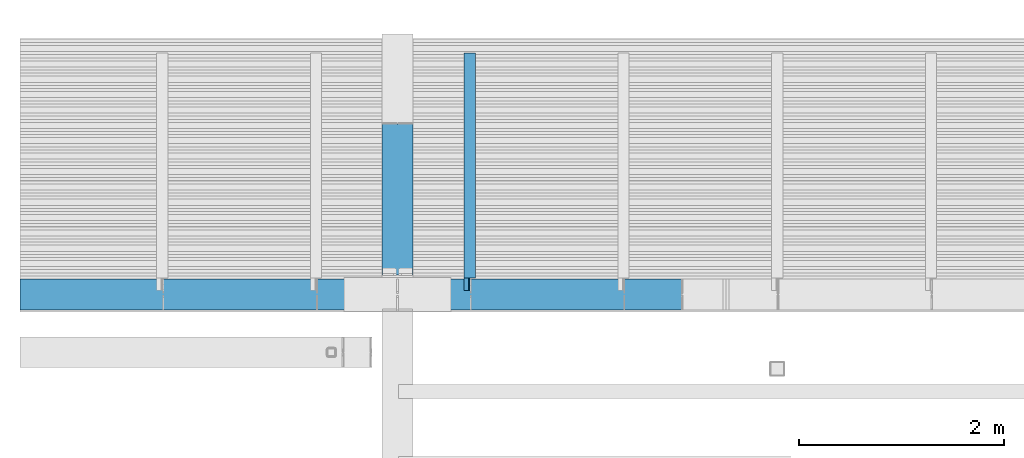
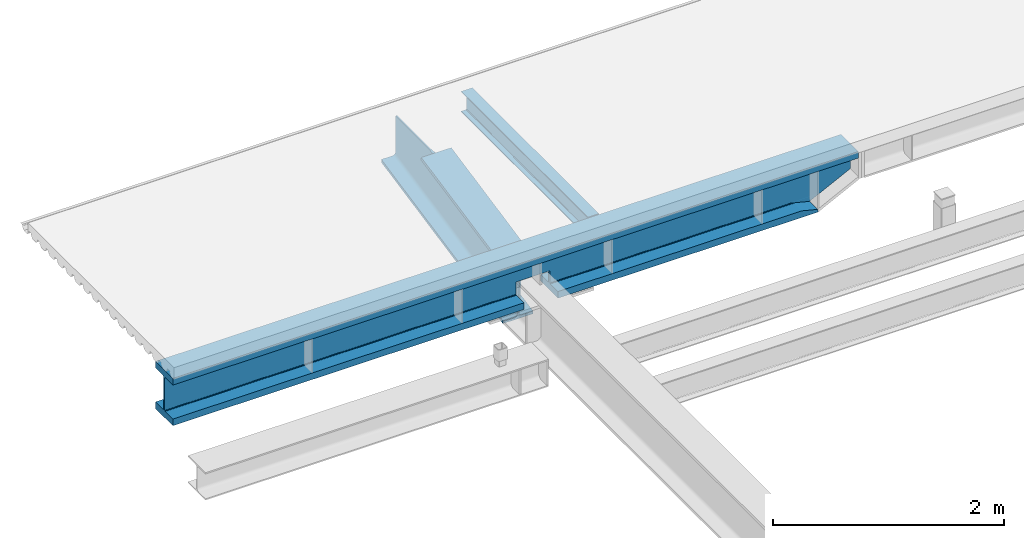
# One storey, part 6 of 12: 3 beams.
"""IFC2X3 building model written with IfcOpenShell, lengths in millimetres."""

from ifc_helpers import new_model, entity, si_unit, converted_unit, derived_unit, direction, frame, origin_with_axes, place, context, subcontext, project, spatial, faceted_brep, type_object, element, save


model = new_model("IFC2X3")

# Units and contexts
model_context = context("Model", 3, precision=0.01, world=frame((0.0, 4.29681676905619e-09, 0.0)), true_north=direction((4.01073788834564e-13, 1.0)))
plan_context = context("Plan", 3, precision=0.01, world=frame((0.0, 4.29681676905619e-09, 0.0)), true_north=direction((4.01073788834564e-13, 1.0)))
body_context = subcontext(model_context, "Body", "Model", "MODEL_VIEW")
ifc_project = project(units=[converted_unit("PLANEANGLEUNIT", "DEGREE", entity("IfcPositiveLengthMeasure", 0.0174532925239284), si_unit("PLANEANGLEUNIT", "RADIAN"), dimensions=[0, 0, 0, 0, 0, 0, 0]), si_unit("AREAUNIT", "SQUARE_METRE"), si_unit("LENGTHUNIT", "METRE", prefix="MILLI"), si_unit("MASSUNIT", "GRAM", prefix="KILO"), si_unit("POWERUNIT", "WATT"), si_unit("PRESSUREUNIT", "PASCAL"), si_unit("FORCEUNIT", "NEWTON", prefix="KILO"), si_unit("ELECTRICVOLTAGEUNIT", "VOLT"), si_unit("ELECTRICCURRENTUNIT", "AMPERE"), si_unit("THERMODYNAMICTEMPERATUREUNIT", "DEGREE_CELSIUS"), si_unit("TIMEUNIT", "SECOND"), si_unit("VOLUMEUNIT", "CUBIC_METRE"), derived_unit("LINEARVELOCITYUNIT", [(si_unit("LENGTHUNIT", "METRE"), 1), (si_unit("TIMEUNIT", "SECOND"), -1)]), derived_unit("VOLUMETRICFLOWRATEUNIT", [(si_unit("VOLUMEUNIT", "CUBIC_METRE"), 1), (si_unit("TIMEUNIT", "SECOND"), -1)]), derived_unit("THERMALTRANSMITTANCEUNIT", [(si_unit("POWERUNIT", "WATT"), 1), (si_unit("THERMODYNAMICTEMPERATUREUNIT", "KELVIN"), -1), (si_unit("AREAUNIT", "SQUARE_METRE"), -1)]), derived_unit("SOUNDPRESSUREUNIT", [(si_unit("PRESSUREUNIT", "PASCAL"), 1)])], contexts=[model_context, plan_context])

# Site, building, storey
site_placement = place(None, frame((0.0, -4.29681676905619e-09, 0.0), z_axis=(0.0, 0.0, 1.0), x_axis=(1.0, 0.0, 0.0)))
site = spatial("IfcSite", under=ifc_project, at=site_placement, Name="Gardermoen", CompositionType="ELEMENT")
building_placement = place(site_placement, frame((0.0, 4.29681676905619e-09, 0.0), z_axis=(0.0, 0.0, 1.0), x_axis=(1.0, 0.0, 0.0)))
building = spatial("IfcBuilding", under=site, at=building_placement, Name="TH", CompositionType="ELEMENT")
storey_placement = place(building_placement, origin_with_axes())
storey = spatial("IfcBuildingStorey", under=building, at=storey_placement, Name="D", CompositionType="ELEMENT", Elevation=0.0)

# Beams
beam_type_1 = type_object("IfcBeamType", Name="HEB600", PredefinedType="NOTDEFINED")
beam_1_placement = place(storey_placement, frame((898795.000000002, 485190.189690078, 209433.977425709), z_axis=(0.0, -0.199367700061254, 0.979924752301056), x_axis=(0.0, 0.979924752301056, 0.199367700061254)))
element("IfcBeam", 1, at=beam_1_placement, inside=storey, type_object=beam_type_1, Name="STÅLBJELKE", ObjectType="HEB600", context=body_context, shape_type="Brep", body=[
    faceted_brep([(2150.82841306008, -150.000000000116, -300.0), (2150.82841306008, 149.999999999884, -300.0), (-1.86077646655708e-10, 149.999999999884, -300.0), (-1.86077646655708e-10, -150.000000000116, -300.0), (2156.93197457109, -150.000000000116, -270.0), (2150.82841306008, -150.000000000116, -299.999451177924), (3.02083751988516, -150.000000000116, -270.0), (2156.93197457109, -34.7500000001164, -270.0), (3.02083751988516, -34.7500000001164, -270.0), (2157.03752497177, -29.4825613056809, -269.481202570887), (3.07307761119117, -29.4825613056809, -269.481202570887), (2157.3501199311, -24.417547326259, -267.944747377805), (3.2277903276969, -24.417547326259, -267.944747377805), (2157.8577466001, -19.7496037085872, -265.449679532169), (3.47903014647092, -19.7496037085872, -265.449679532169), (2158.54089717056, -15.6581169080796, -262.091883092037), (3.81714206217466, -15.6581169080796, -262.091883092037), (2159.37331854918, -12.3003204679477, -258.000396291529), (4.22913262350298, -12.3003204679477, -258.000396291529), (2160.32302124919, -9.80525262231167, -253.332452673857), (4.69916926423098, -9.80525262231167, -253.332452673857), (2161.35350872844, -8.2687974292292, -248.267438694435), (5.20918873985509, -8.2687974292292, -248.267438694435), (2162.42517993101, -7.75000000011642, -243.0), (5.73959128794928, -7.75000000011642, -243.0), (2238.78830322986, -7.7500000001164, 132.33720186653), (54.6771591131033, -7.75000000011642, 243.0), (1694.86260826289, -7.75000000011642, 243.0), (55.2075616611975, -8.2687974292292, 248.267438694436), (1668.97228829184, -8.2687974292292, 248.267438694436), (55.7175811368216, -9.80525262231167, 253.332452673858), (1644.07691879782, -9.80525262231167, 253.332452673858), (56.1876177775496, -12.3003204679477, 258.000396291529), (1621.13321486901, -12.3003204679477, 258.000396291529), (56.5996083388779, -15.6581169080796, 262.091883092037), (1601.0228901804, -15.6581169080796, 262.091883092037), (56.9377202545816, -19.7496037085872, 265.449679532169), (1584.51877323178, -19.7496037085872, 265.449679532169), (57.1889600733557, -24.417547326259, 267.944747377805), (1572.25510798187, -24.417547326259, 267.944747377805), (57.3436727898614, -29.482561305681, 269.481202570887), (1564.70318020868, -29.482561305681, 269.481202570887), (57.3959128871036, -34.7500005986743, 270.000000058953), (1562.1532028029, -34.7500071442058, 270.000000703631), (57.3959128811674, -150.000000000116, 270.0), (1562.15320273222, -150.000000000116, 270.0), (1562.1532028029, -34.7500000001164, 270.0), (57.3959128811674, -34.7500000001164, 270.0), (60.4167504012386, -150.000000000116, 300.0), (1565.17404025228, -150.000000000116, 300.0), (1562.1532028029, -150.000000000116, 270.000000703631), (57.3959128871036, -150.000000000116, 270.000000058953), (60.4167504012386, 149.999999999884, 300.0), (1565.17404025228, 149.999999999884, 300.0), (57.3959128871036, 149.999999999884, 270.000000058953), (1562.1532028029, 149.999999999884, 270.000000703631), (57.3959128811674, 34.7499999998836, 270.0), (1562.1532028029, 34.7499999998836, 270.0), (1562.15320273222, 149.999999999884, 270.0), (57.3959128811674, 149.999999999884, 270.0), (57.3436727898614, 29.4825613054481, 269.481202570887), (1564.70318020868, 29.4825613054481, 269.481202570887), (1562.1532028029, 34.7500071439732, 270.000000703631), (57.3959128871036, 34.7500005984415, 270.000000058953), (57.1889600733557, 24.4175473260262, 267.944747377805), (1572.25510798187, 24.4175473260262, 267.944747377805), (56.9377202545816, 19.7496037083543, 265.449679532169), (1584.51877323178, 19.7496037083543, 265.449679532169), (56.5996083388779, 15.6581169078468, 262.091883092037), (1601.0228901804, 15.6581169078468, 262.091883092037), (56.1876177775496, 12.3003204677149, 258.000396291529), (1621.13321486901, 12.3003204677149, 258.000396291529), (55.7175811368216, 9.80525262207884, 253.332452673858), (1644.07691879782, 9.80525262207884, 253.332452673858), (55.2075616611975, 8.26879742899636, 248.267438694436), (1668.97228829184, 8.26879742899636, 248.267438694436), (54.6771591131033, 7.74999999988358, 243.0), (1694.86260826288, 7.74999999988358, 243.0), (2162.42517993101, 7.74999999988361, -243.0), (2238.78830322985, 7.74999999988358, 132.33720186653), (5.73959128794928, 7.74999999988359, -243.0), (2161.35350872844, 8.26879742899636, -248.267438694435), (5.20918873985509, 8.26879742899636, -248.267438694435), (2160.32302124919, 9.80525262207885, -253.332452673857), (4.69916926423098, 9.80525262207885, -253.332452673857), (2159.37331854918, 12.3003204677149, -258.000396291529), (4.22913262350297, 12.3003204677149, -258.000396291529), (2158.54089717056, 15.6581169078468, -262.091883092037), (3.81714206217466, 15.6581169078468, -262.091883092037), (2157.8577466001, 19.7496037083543, -265.449679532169), (3.47903014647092, 19.7496037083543, -265.449679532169), (2157.3501199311, 24.4175473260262, -267.944747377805), (3.2277903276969, 24.4175473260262, -267.944747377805), (2157.03752497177, 29.4825613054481, -269.481202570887), (3.07307761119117, 29.4825613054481, -269.481202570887), (2156.93197457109, 34.7499999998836, -270.0), (3.02083751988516, 34.7499999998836, -270.0), (2156.93197457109, 149.999999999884, -270.0), (3.02083751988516, 149.999999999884, -270.0), (1562.15320626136, -34.7500000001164, 270.0), (1562.15320626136, 34.7499999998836, 270.0)], [[[0, 1, 2, 3]], [[4, 5, 3, 6]], [[7, 4, 6, 8]], [[9, 7, 8, 10]], [[11, 9, 10, 12]], [[13, 11, 12, 14]], [[15, 13, 14, 16]], [[17, 15, 16, 18]], [[19, 17, 18, 20]], [[21, 19, 20, 22]], [[23, 21, 22, 24]], [[25, 23, 24, 26, 27]], [[28, 29, 27, 26]], [[30, 31, 29, 28]], [[32, 33, 31, 30]], [[34, 35, 33, 32]], [[36, 37, 35, 34]], [[38, 39, 37, 36]], [[40, 41, 39, 38]], [[42, 43, 41, 40]], [[44, 45, 46, 47]], [[48, 49, 50, 51]], [[52, 53, 49, 48]], [[54, 55, 53, 52]], [[56, 57, 58, 59]], [[60, 61, 62, 63]], [[64, 65, 61, 60]], [[66, 67, 65, 64]], [[68, 69, 67, 66]], [[70, 71, 69, 68]], [[72, 73, 71, 70]], [[74, 75, 73, 72]], [[76, 77, 75, 74]], [[78, 79, 77, 76, 80]], [[81, 78, 80, 82]], [[83, 81, 82, 84]], [[85, 83, 84, 86]], [[87, 85, 86, 88]], [[89, 87, 88, 90]], [[91, 89, 90, 92]], [[93, 91, 92, 94]], [[95, 93, 94, 96]], [[97, 95, 96, 98]], [[1, 97, 98, 2]], [[53, 58, 45, 49]], [[79, 25, 27, 29, 31, 33, 35, 37, 39, 41, 99, 100, 61, 65, 67, 69, 71, 73, 75, 77]], [[98, 96, 94, 92, 90, 88, 86, 84, 82, 80, 76, 74, 72, 70, 68, 66, 64, 60, 56, 54, 52, 48, 44, 42, 40, 38, 36, 34, 32, 30, 28, 26, 24, 22, 20, 18, 16, 14, 12, 10, 8, 6, 3, 2]], [[4, 7, 9, 11, 13, 15, 17, 19, 21, 23, 25, 79, 78, 81, 83, 85, 87, 89, 91, 93, 95, 97, 1, 0]]], orient=[[False], [False], [False], [False], [False], [False], [False], [False], [False], [False], [False], [False], [False], [False], [False], [False], [False], [False], [False], [False], [False], [False], [False], [False], [False], [False], [False], [False], [False], [False], [False], [False], [False], [False], [False], [False], [False], [False], [False], [False], [False], [False], [False], [False], [False], [False], [False], [False]]),
])
beam_type_2 = type_object("IfcBeamType", Name="IPE220", PredefinedType="NOTDEFINED")
beam_2_placement = place(storey_placement, frame((899499.999781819, 484999.995625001, 209930.0), z_axis=(0.0, 0.0, 1.0), x_axis=(0.0, 1.0, 0.0)))
element("IfcBeam", 2, at=beam_2_placement, inside=storey, type_object=beam_type_2, Name="STÅLBJELKE", ObjectType="IPE220", context=body_context, shape_type="Brep", body=[
    faceted_brep([(2357.65437500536, -55.0, -110.0), (2357.65437500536, 55.0, -110.0), (39.9999999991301, 55.0, -110.0), (39.9999999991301, -2.9500000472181, -110.0), (159.999999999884, -2.95000004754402, -110.0), (159.999999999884, -55.0, -110.0), (2357.65437500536, -55.0, -100.800000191), (159.999999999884, -55.0, -100.800000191), (2357.65437500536, -14.9500000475, -100.800000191), (159.999999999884, -14.9500000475, -100.800000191), (2357.65437500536, -12.6089161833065, -100.569423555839), (159.999999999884, -12.6089161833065, -100.569423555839), (2357.65437500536, -10.3577988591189, -99.8865545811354), (159.999999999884, -10.3577988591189, -99.8865545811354), (2357.65437500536, -8.28315725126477, -98.7776355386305), (159.999999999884, -8.28315725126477, -98.7776355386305), (2357.65437500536, -6.46471867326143, -97.2852815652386), (159.999999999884, -6.46471867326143, -97.2852815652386), (2357.65437500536, -4.97236469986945, -95.4668429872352), (159.999999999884, -4.97236469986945, -95.4668429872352), (2357.65437500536, -3.86344565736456, -93.3922013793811), (159.999999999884, -3.86344565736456, -93.3922013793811), (2357.65437500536, -3.18057668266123, -91.1410840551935), (159.999999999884, -3.18057668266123, -91.1410840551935), (2357.65437500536, -2.9500000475, -88.800000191), (159.999999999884, -3.06818971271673, -90.0), (39.9999999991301, -3.06818971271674, -90.0), (39.9999999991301, -2.9500000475, -88.800000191), (2357.65437500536, -2.9500000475, 88.800000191), (39.9999999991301, -2.9500000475, 30.0), (150.000000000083, -2.95000004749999, 29.9999999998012), (151.564344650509, -2.95000004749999, 30.1231165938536), (153.090169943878, -2.95000004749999, 30.4894348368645), (154.539904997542, -2.95000004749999, 31.0899347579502), (155.877852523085, -2.95000004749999, 31.9098300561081), (157.071067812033, -2.95000004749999, 32.9289321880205), (158.090169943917, -2.95000004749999, 34.1221474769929), (158.910065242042, -2.95000004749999, 35.4600950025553), (159.510565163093, -2.95000004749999, 36.9098300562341), (159.876883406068, -2.95000004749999, 38.435655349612), (160.000000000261, -2.95000004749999, 39.999999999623), (160.000000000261, -2.9500000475, 88.800000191), (2357.65437500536, -3.18057668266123, 91.1410840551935), (160.000000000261, -3.18057668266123, 91.1410840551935), (2357.65437500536, -3.86344565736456, 93.3922013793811), (160.000000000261, -3.86344565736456, 93.3922013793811), (2357.65437500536, -4.97236469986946, 95.4668429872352), (160.000000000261, -4.97236469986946, 95.4668429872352), (2357.65437500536, -6.46471867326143, 97.2852815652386), (160.000000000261, -6.46471867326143, 97.2852815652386), (2357.65437500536, -8.28315725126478, 98.7776355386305), (160.000000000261, -8.28315725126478, 98.7776355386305), (2357.65437500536, -10.3577988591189, 99.8865545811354), (160.000000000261, -10.3577988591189, 99.8865545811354), (2357.65437500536, -12.6089161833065, 100.569423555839), (160.000000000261, -12.6089161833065, 100.569423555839), (2357.65437500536, -14.9500000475, 100.800000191), (160.000000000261, -14.9500000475, 100.800000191), (2357.65437500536, -55.0, 100.800000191), (160.000000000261, -55.0, 100.800000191), (2357.65437500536, -55.0, 110.0), (160.000000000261, -55.0, 110.0), (2357.65437500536, 55.0, 110.0), (160.000000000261, 55.0, 110.0), (2357.65437500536, 55.0, 100.800000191), (160.000000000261, 55.0, 100.800000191), (2357.65437500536, 14.9500000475, 100.800000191), (160.000000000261, 14.9500000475, 100.800000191), (2357.65437500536, 12.6089161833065, 100.569423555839), (160.000000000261, 12.6089161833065, 100.569423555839), (2357.65437500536, 10.3577988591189, 99.8865545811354), (160.000000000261, 10.3577988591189, 99.8865545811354), (2357.65437500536, 8.28315725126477, 98.7776355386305), (160.000000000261, 8.28315725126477, 98.7776355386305), (2357.65437500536, 6.46471867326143, 97.2852815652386), (160.000000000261, 6.46471867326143, 97.2852815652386), (2357.65437500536, 4.97236469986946, 95.4668429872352), (160.000000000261, 4.97236469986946, 95.4668429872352), (2357.65437500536, 3.86344565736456, 93.3922013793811), (160.000000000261, 3.86344565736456, 93.3922013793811), (2357.65437500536, 3.18057668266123, 91.1410840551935), (160.000000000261, 3.18057668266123, 91.1410840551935), (2357.65437500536, 2.9500000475, 88.800000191), (160.000000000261, 2.9500000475, 88.800000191), (2357.65437500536, 2.9500000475, -88.800000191), (160.000000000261, 2.9500000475, 39.999999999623), (159.876883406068, 2.9500000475, 38.435655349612), (159.510565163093, 2.9500000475, 36.9098300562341), (158.910065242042, 2.9500000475, 35.4600950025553), (158.090169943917, 2.9500000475, 34.1221474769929), (157.071067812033, 2.9500000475, 32.9289321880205), (155.877852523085, 2.9500000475, 31.9098300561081), (154.539904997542, 2.9500000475, 31.0899347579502), (153.090169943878, 2.9500000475, 30.4894348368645), (151.564344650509, 2.9500000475, 30.1231165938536), (150.000000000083, 2.9500000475, 29.9999999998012), (39.9999999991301, 2.9500000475, 30.0), (39.9999999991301, 2.9500000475, -88.800000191), (2357.65437500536, 3.18057668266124, -91.1410840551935), (39.9999999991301, 3.18057668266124, -91.1410840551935), (2357.65437500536, 3.86344565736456, -93.3922013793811), (39.9999999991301, 3.86344565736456, -93.3922013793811), (2357.65437500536, 4.97236469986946, -95.4668429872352), (39.9999999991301, 4.97236469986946, -95.4668429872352), (2357.65437500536, 6.46471867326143, -97.2852815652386), (39.9999999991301, 6.46471867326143, -97.2852815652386), (2357.65437500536, 8.28315725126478, -98.7776355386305), (39.9999999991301, 8.28315725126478, -98.7776355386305), (2357.65437500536, 10.3577988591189, -99.8865545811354), (39.9999999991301, 10.3577988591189, -99.8865545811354), (2357.65437500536, 12.6089161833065, -100.569423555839), (39.9999999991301, 12.6089161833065, -100.569423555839), (2357.65437500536, 14.9500000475, -100.800000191), (39.9999999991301, 14.9500000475, -100.800000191), (2357.65437500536, 55.0, -100.800000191), (39.9999999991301, 55.0, -100.800000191), (159.999999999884, -2.95000004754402, -90.0), (39.9999999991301, -2.95000004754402, -90.0)], [[[0, 1, 2, 3, 4, 5]], [[6, 0, 5, 7]], [[8, 6, 7, 9]], [[10, 8, 9, 11]], [[12, 10, 11, 13]], [[14, 12, 13, 15]], [[16, 14, 15, 17]], [[18, 16, 17, 19]], [[20, 18, 19, 21]], [[22, 20, 21, 23]], [[24, 22, 23, 25, 26, 27]], [[28, 24, 27, 29, 30, 31, 32, 33, 34, 35, 36, 37, 38, 39, 40, 41]], [[42, 28, 41, 43]], [[44, 42, 43, 45]], [[46, 44, 45, 47]], [[48, 46, 47, 49]], [[50, 48, 49, 51]], [[52, 50, 51, 53]], [[54, 52, 53, 55]], [[56, 54, 55, 57]], [[58, 56, 57, 59]], [[60, 58, 59, 61]], [[62, 60, 61, 63]], [[64, 62, 63, 65]], [[66, 64, 65, 67]], [[68, 66, 67, 69]], [[70, 68, 69, 71]], [[72, 70, 71, 73]], [[74, 72, 73, 75]], [[76, 74, 75, 77]], [[78, 76, 77, 79]], [[80, 78, 79, 81]], [[82, 80, 81, 83]], [[84, 82, 83, 85, 86, 87, 88, 89, 90, 91, 92, 93, 94, 95, 96, 97]], [[98, 84, 97, 99]], [[100, 98, 99, 101]], [[102, 100, 101, 103]], [[104, 102, 103, 105]], [[106, 104, 105, 107]], [[108, 106, 107, 109]], [[110, 108, 109, 111]], [[112, 110, 111, 113]], [[114, 112, 113, 115]], [[1, 114, 115, 2]], [[116, 25, 23, 21, 19, 17, 15, 13, 11, 9, 7, 5, 4]], [[116, 117, 26, 25]], [[116, 4, 3, 117]], [[30, 29, 96, 95]], [[95, 94, 31, 30]], [[94, 93, 32, 31]], [[93, 92, 33, 32]], [[92, 91, 34, 33]], [[91, 90, 35, 34]], [[90, 89, 36, 35]], [[89, 88, 37, 36]], [[88, 87, 38, 37]], [[87, 86, 39, 38]], [[86, 85, 40, 39]], [[85, 83, 81, 79, 77, 75, 73, 71, 69, 67, 65, 63, 61, 59, 57, 55, 53, 51, 49, 47, 45, 43, 41, 40]], [[26, 117, 3, 2, 115, 113, 111, 109, 107, 105, 103, 101, 99, 97, 96, 29, 27]], [[6, 8, 10, 12, 14, 16, 18, 20, 22, 24, 28, 42, 44, 46, 48, 50, 52, 54, 56, 58, 60, 62, 64, 66, 68, 70, 72, 74, 76, 78, 80, 82, 84, 98, 100, 102, 104, 106, 108, 110, 112, 114, 1, 0]]], orient=[[False], [False], [False], [False], [False], [False], [False], [False], [False], [False], [False], [False], [False], [False], [False], [False], [False], [False], [False], [False], [False], [False], [False], [False], [False], [False], [False], [False], [False], [False], [False], [False], [False], [False], [False], [False], [False], [False], [False], [False], [False], [False], [False], [False], [False], [False], [False], [False], [False], [False], [False], [False], [False], [False], [False], [False], [False], [False], [False], [False], [False]]),
])
beam_type_3 = type_object("IfcBeamType", Name="HI500-20-70*300", PredefinedType="NOTDEFINED")
beam_3_placement = place(storey_placement, frame((886883.999781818, 484999.995625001, 209790.0), z_axis=(0.0, 0.0, 1.0), x_axis=(1.0, 0.0, 0.0)))
element("IfcBeam", 3, at=beam_3_placement, inside=storey, type_object=beam_type_3, Name="STÅLBJELKE", ObjectType="HI500-20-70*300", context=body_context, shape_type="Brep", body=[
    faceted_brep([(14686.0006549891, -150.0, -250.0), (14686.0006549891, 150.0, -250.0), (12081.0002181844, 150.0, -250.0), (12081.0002181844, -150.0, -250.0), (8227.90638675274, 150.0, -250.0), (8227.90638675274, -150.0, -250.0), (11741.0002181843, -150.0, -250.0), (11741.0002181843, 150.0, -250.0), (14518.9186529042, -150.0, -180.0), (14678.9186156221, -150.0, -220.000000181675), (12081.0002181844, -150.0, -180.0), (8227.90638675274, -150.0, -180.0), (11741.0002181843, -150.0, -180.0), (14518.9186529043, -24.0, -180.0), (12081.0002181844, -24.0, -180.0), (8227.90638675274, -24.0, -180.0), (11741.0002181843, -24.0, -180.0), (14517.8426288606, -21.2687354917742, -179.730993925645), (12081.0002181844, -21.2687354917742, -179.730993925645), (8227.90638675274, -21.2687354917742, -179.730993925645), (11741.0002181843, -21.2687354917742, -179.730993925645), (14514.6559077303, -18.6424319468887, -178.934313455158), (12081.0002181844, -18.6424319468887, -178.934313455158), (8227.90638675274, -18.6424319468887, -178.934313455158), (11741.0002181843, -18.6424319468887, -178.934313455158), (14509.4809534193, -16.2220167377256, -177.640574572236), (12081.0002181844, -16.2220167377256, -177.640574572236), (8227.90638675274, -16.2220167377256, -177.640574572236), (11741.0002181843, -16.2220167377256, -177.640574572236), (14502.5166365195, -14.1005050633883, -175.899494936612), (12081.0002181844, -14.1005050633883, -175.899494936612), (8227.90638675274, -14.1005050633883, -175.899494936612), (11741.0002181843, -14.1005050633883, -175.899494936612), (14494.0305918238, -12.3594254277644, -173.777983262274), (12081.0002181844, -12.3594254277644, -173.777983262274), (8227.90638675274, -12.3594254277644, -173.777983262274), (11741.0002181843, -12.3594254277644, -173.777983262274), (14484.984855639, -11.065686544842, -171.357568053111), (14484.3664728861, -11.0680303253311, -171.361952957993), (12081.0002181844, -11.065686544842, -171.357568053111), (8227.90638675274, -11.065686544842, -171.357568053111), (11741.0002181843, -11.065686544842, -171.357568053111), (14781.4559646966, -10.2690060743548, -168.731264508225), (14780.3927890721, -10.4302616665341, -169.262852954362), (12081.0002181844, -10.2690060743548, -168.731264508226), (8227.90638675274, -10.2690060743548, -168.731264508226), (11741.0002181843, -10.2690060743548, -168.731264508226), (14786.9184871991, -9.99999999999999, -166.0), (12081.0002181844, -10.0, -166.0), (8227.90638675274, -10.0, -166.0), (11741.0002181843, -10.0, -166.0), (8227.90638675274, -10.0, 166.0), (15086.0002181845, -10.0, 166.0), (15086.0002181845, -10.000000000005, -16.4589561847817), (12081.0002181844, -10.0, -45.0000000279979), (11741.0002181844, -10.0, -45.0000000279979), (8227.90638675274, -10.2690060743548, 168.731264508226), (15086.0002181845, -10.2690060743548, 168.731264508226), (8227.90638675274, -11.065686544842, 171.357568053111), (15086.0002181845, -11.065686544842, 171.357568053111), (8227.90638675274, -12.3594254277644, 173.777983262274), (15086.0002181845, -12.3594254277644, 173.777983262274), (8227.90638675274, -14.1005050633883, 175.899494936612), (15086.0002181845, -14.1005050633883, 175.899494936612), (8227.90638675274, -16.2220167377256, 177.640574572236), (15086.0002181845, -16.2220167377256, 177.640574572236), (8227.90638675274, -18.6424319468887, 178.934313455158), (15086.0002181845, -18.6424319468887, 178.934313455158), (8227.90638675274, -21.2687354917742, 179.730993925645), (15086.0002181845, -21.2687354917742, 179.730993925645), (8227.90638675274, -24.0, 180.0), (15086.0002181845, -24.0, 180.0), (8227.90638675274, -150.0, 180.0), (15086.0002181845, -150.0, 180.0), (8227.90638675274, -150.0, 250.0), (15086.0002181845, -150.0, 250.0), (8227.90638675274, 150.0, 250.0), (15086.0002181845, 150.0, 250.0), (8227.90638675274, 150.0, 180.0), (15086.0002181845, 150.0, 180.0), (8227.90638675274, 24.0, 180.0), (15086.0002181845, 24.0, 180.0), (8227.90638675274, 21.2687354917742, 179.730993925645), (15086.0002181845, 21.2687354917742, 179.730993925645), (8227.90638675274, 18.6424319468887, 178.934313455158), (15086.0002181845, 18.6424319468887, 178.934313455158), (8227.90638675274, 16.2220167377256, 177.640574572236), (15086.0002181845, 16.2220167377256, 177.640574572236), (8227.90638675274, 14.1005050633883, 175.899494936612), (15086.0002181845, 14.1005050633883, 175.899494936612), (8227.90638675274, 12.3594254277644, 173.777983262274), (15086.0002181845, 12.3594254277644, 173.777983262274), (8227.90638675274, 11.065686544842, 171.357568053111), (15086.0002181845, 11.065686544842, 171.357568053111), (8227.90638675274, 10.2690060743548, 168.731264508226), (15086.0002181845, 10.2690060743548, 168.731264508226), (8227.90638675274, 10.0, 166.0), (15086.0002181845, 10.0, 166.0), (8227.90638675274, 10.0, -166.0), (11741.0002181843, 10.0, -166.0), (11741.0002181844, 9.99999999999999, -45.0000000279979), (12081.0002181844, 9.99999999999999, -45.0000000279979), (12081.0002181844, 10.0, -166.0), (14786.9184871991, 10.0, -166.0), (15086.0002181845, 10.0, -16.4589561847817), (14781.4559646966, 10.2690060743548, -168.731264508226), (12081.0002181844, 10.2690060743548, -168.731264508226), (8227.90638675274, 10.2690060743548, -168.731264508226), (11741.0002181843, 10.2690060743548, -168.731264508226), (14484.984855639, 11.0656865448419, -171.357568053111), (14780.3927890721, 10.4302616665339, -169.262852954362), (12081.0002181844, 11.065686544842, -171.357568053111), (8227.90638675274, 11.065686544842, -171.357568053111), (11741.0002181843, 11.065686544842, -171.357568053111), (14494.0305918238, 12.3594254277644, -173.777983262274), (14484.3664728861, 11.0670166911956, -171.361952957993), (12081.0002181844, 12.3594254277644, -173.777983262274), (8227.90638675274, 12.3594254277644, -173.777983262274), (11741.0002181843, 12.3594254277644, -173.777983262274), (14502.5166365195, 14.1005050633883, -175.899494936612), (12081.0002181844, 14.1005050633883, -175.899494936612), (8227.90638675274, 14.1005050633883, -175.899494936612), (11741.0002181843, 14.1005050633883, -175.899494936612), (14509.4809534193, 16.2220167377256, -177.640574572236), (12081.0002181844, 16.2220167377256, -177.640574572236), (8227.90638675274, 16.2220167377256, -177.640574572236), (11741.0002181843, 16.2220167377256, -177.640574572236), (14514.6559077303, 18.6424319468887, -178.934313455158), (12081.0002181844, 18.6424319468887, -178.934313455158), (8227.90638675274, 18.6424319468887, -178.934313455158), (11741.0002181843, 18.6424319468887, -178.934313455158), (14517.8426288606, 21.2687354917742, -179.730993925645), (12081.0002181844, 21.2687354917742, -179.730993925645), (8227.90638675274, 21.2687354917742, -179.730993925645), (11741.0002181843, 21.2687354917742, -179.730993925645), (14518.9186529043, 24.0, -180.0), (12081.0002181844, 24.0, -180.0), (8227.90638675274, 24.0, -180.0), (11741.0002181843, 24.0, -180.0), (14518.9186529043, 150.0, -180.0), (12081.0002181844, 150.0, -180.0), (8227.90638675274, 150.0, -180.0), (11741.0002181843, 150.0, -180.0), (14678.9186156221, 150.0, -220.000000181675), (14780.3927890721, 10.008749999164, -169.262852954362), (14678.9186163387, 10.008749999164, -220.000000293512), (14678.9186163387, -10.0000000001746, -220.000000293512), (14780.3927890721, -10.0000000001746, -169.262852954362), (14781.4559656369, -10.2690060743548, -168.731264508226), (14786.9184881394, -10.0, -166.0), (15086.0002181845, -10.0, -16.4589566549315), (15086.0002181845, 10.0, -16.4589566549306), (14786.9184881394, 10.0, -166.0), (14781.4559656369, 10.2690060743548, -168.731264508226), (14484.3664728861, -10.0000000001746, -171.361952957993), (14678.9186163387, -150.0, -220.000000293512), (14678.9186156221, -10.0000000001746, -220.000000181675), (14484.3664728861, 10.008749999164, -171.361952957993), (14484.3664728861, 11.0680303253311, -171.361952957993), (14678.9186163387, 150.0, -220.000000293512), (14484.3489332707, 11.065686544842, -171.357568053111), (14678.9186156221, 10.008749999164, -220.000000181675)], [[[0, 1, 2, 3]], [[4, 5, 6, 7]], [[8, 9, 0, 3, 10]], [[5, 11, 12, 6]], [[13, 8, 10, 14]], [[11, 15, 16, 12]], [[17, 13, 14, 18]], [[15, 19, 20, 16]], [[21, 17, 18, 22]], [[19, 23, 24, 20]], [[25, 21, 22, 26]], [[23, 27, 28, 24]], [[29, 25, 26, 30]], [[27, 31, 32, 28]], [[33, 29, 30, 34]], [[31, 35, 36, 32]], [[37, 38, 33, 34, 39]], [[35, 40, 41, 36]], [[42, 43, 37, 39, 44]], [[40, 45, 46, 41]], [[47, 42, 44, 48]], [[45, 49, 50, 46]], [[49, 51, 52, 53, 47, 48, 54, 55, 50]], [[51, 56, 57, 52]], [[56, 58, 59, 57]], [[58, 60, 61, 59]], [[60, 62, 63, 61]], [[62, 64, 65, 63]], [[64, 66, 67, 65]], [[66, 68, 69, 67]], [[68, 70, 71, 69]], [[70, 72, 73, 71]], [[72, 74, 75, 73]], [[74, 76, 77, 75]], [[76, 78, 79, 77]], [[78, 80, 81, 79]], [[80, 82, 83, 81]], [[82, 84, 85, 83]], [[84, 86, 87, 85]], [[86, 88, 89, 87]], [[88, 90, 91, 89]], [[90, 92, 93, 91]], [[92, 94, 95, 93]], [[94, 96, 97, 95]], [[96, 98, 99, 100, 101, 102, 103, 104, 97]], [[105, 103, 102, 106]], [[98, 107, 108, 99]], [[109, 110, 105, 106, 111]], [[107, 112, 113, 108]], [[114, 115, 109, 111, 116]], [[112, 117, 118, 113]], [[119, 114, 116, 120]], [[117, 121, 122, 118]], [[123, 119, 120, 124]], [[121, 125, 126, 122]], [[127, 123, 124, 128]], [[125, 129, 130, 126]], [[131, 127, 128, 132]], [[129, 133, 134, 130]], [[135, 131, 132, 136]], [[133, 137, 138, 134]], [[139, 135, 136, 140]], [[137, 141, 142, 138]], [[1, 143, 139, 140, 2]], [[141, 4, 7, 142]], [[104, 53, 52, 57, 59, 61, 63, 65, 67, 69, 71, 73, 75, 77, 79, 81, 83, 85, 87, 89, 91, 93, 95, 97]], [[143, 1, 0, 9]], [[144, 145, 146, 147, 43, 148, 149, 150, 151, 152, 153, 110]], [[154, 146, 155, 8, 13, 17, 21, 25, 29, 33, 38]], [[147, 154, 38, 43]], [[154, 147, 156]], [[145, 157, 158, 114, 119, 123, 127, 131, 135, 139, 159]], [[157, 144, 110, 160]], [[157, 161, 144]], [[100, 99, 108, 113, 118, 122, 126, 130, 134, 138, 142, 7, 6, 12, 16, 20, 24, 28, 32, 36, 41, 46, 50, 55]], [[55, 54, 101, 100]], [[54, 48, 44, 39, 34, 30, 26, 22, 18, 14, 10, 3, 2, 140, 136, 132, 128, 124, 120, 116, 111, 106, 102, 101]], [[141, 137, 133, 129, 125, 121, 117, 112, 107, 98, 96, 94, 92, 90, 88, 86, 84, 82, 80, 78, 76, 74, 72, 70, 68, 66, 64, 62, 60, 58, 56, 51, 49, 45, 40, 35, 31, 27, 23, 19, 15, 11, 5, 4]]], orient=[[False], [False], [False], [False], [False], [False], [False], [False], [False], [False], [False], [False], [False], [False], [False], [False], [False], [False], [False], [False], [False], [False], [False], [False], [False], [False], [False], [False], [False], [False], [False], [False], [False], [False], [False], [False], [False], [False], [False], [False], [False], [False], [False], [False], [False], [False], [False], [False], [False], [False], [False], [False], [False], [False], [False], [False], [False], [False], [False], [False], [False], [False], [False], [False], [False], [False], [False], [False], [False], [False], [False], [False], [False], [False], [False], [False], [False], [False]]),
])

save(model, "model.ifc")
